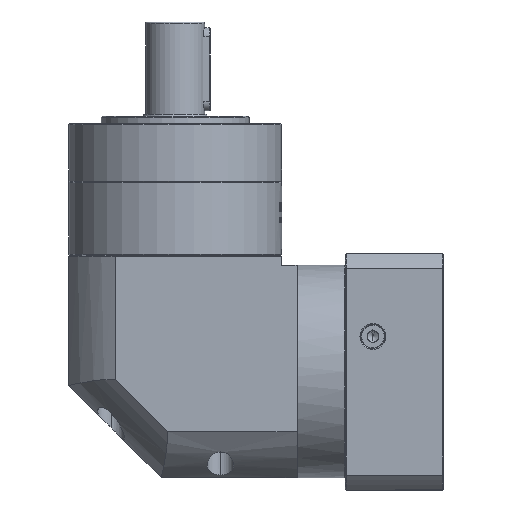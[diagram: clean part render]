
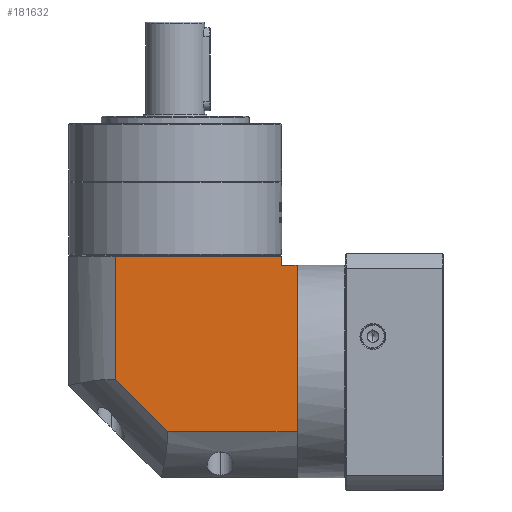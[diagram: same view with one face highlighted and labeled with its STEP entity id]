
A CAD part, left-side view. The second image highlights one B-rep face of the part: STEP entity #181632.
In plain terms, the highlighted planar face has unit normal (-1, 0, 0).
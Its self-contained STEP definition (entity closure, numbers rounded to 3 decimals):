
#5283 = CARTESIAN_POINT ( 'NONE',  ( -298.076, -80.933, 2.07 ) ) ;
#6158 = CARTESIAN_POINT ( 'NONE',  ( -298.076, 42.467, 2.07 ) ) ;
#6848 = VERTEX_POINT ( 'NONE', #59376 ) ;
#7757 = DIRECTION ( 'NONE',  ( 0., 1., 0. ) ) ;
#10966 = CARTESIAN_POINT ( 'NONE',  ( -298.076, -72.533, 96.97 ) ) ;
#12203 = ORIENTED_EDGE ( 'NONE', *, *, #44367, .F. ) ;
#12793 = LINE ( 'NONE', #159366, #122708 ) ;
#14557 = DIRECTION ( 'NONE',  ( 0., 0., 1. ) ) ;
#28820 = CARTESIAN_POINT ( 'NONE',  ( -298.076, -72.533, -23.03 ) ) ;
#29310 = CARTESIAN_POINT ( 'NONE',  ( -298.076, 17.367, 96.97 ) ) ;
#31115 = VECTOR ( 'NONE', #87842, 1000. ) ;
#34261 = EDGE_CURVE ( 'NONE', #171679, #169078, #182042, .T. ) ;
#37589 = CARTESIAN_POINT ( 'NONE',  ( -298.076, 42.467, 96.97 ) ) ;
#43443 = VECTOR ( 'NONE', #58281, 1000. ) ;
#44367 = EDGE_CURVE ( 'NONE', #99599, #169078, #136914, .T. ) ;
#49477 = AXIS2_PLACEMENT_3D ( 'NONE', #168562, #124232, #96003 ) ;
#50955 = LINE ( 'NONE', #103453, #116828 ) ;
#58281 = DIRECTION ( 'NONE',  ( 0., 0., 1. ) ) ;
#59376 = CARTESIAN_POINT ( 'NONE',  ( -298.076, 17.367, 30.408 ) ) ;
#65256 = EDGE_LOOP ( 'NONE', ( #91799, #118980, #157687, #157372, #175764, #162749, #12203 ) ) ;
#67334 = LINE ( 'NONE', #83324, #172774 ) ;
#69162 = EDGE_CURVE ( 'NONE', #89600, #171679, #119197, .T. ) ;
#74395 = FACE_OUTER_BOUND ( 'NONE', #65256, .T. ) ;
#78170 = EDGE_CURVE ( 'NONE', #6848, #99599, #67334, .T. ) ;
#83324 = CARTESIAN_POINT ( 'NONE',  ( -298.076, 17.367, 103.47 ) ) ;
#87842 = DIRECTION ( 'NONE',  ( 0., 1., 0. ) ) ;
#88684 = EDGE_CURVE ( 'NONE', #119523, #6848, #50955, .T. ) ;
#89600 = VERTEX_POINT ( 'NONE', #174861 ) ;
#91799 = ORIENTED_EDGE ( 'NONE', *, *, #78170, .F. ) ;
#96003 = DIRECTION ( 'NONE',  ( 0., 1., 0. ) ) ;
#99599 = VERTEX_POINT ( 'NONE', #29310 ) ;
#101399 = LINE ( 'NONE', #6158, #31115 ) ;
#103453 = CARTESIAN_POINT ( 'NONE',  ( -298.076, -10.971, 2.07 ) ) ;
#110721 = PLANE ( 'NONE',  #49477 ) ;
#111415 = EDGE_CURVE ( 'NONE', #178749, #119523, #101399, .T. ) ;
#114943 = CARTESIAN_POINT ( 'NONE',  ( -298.076, -72.533, 91.97 ) ) ;
#116828 = VECTOR ( 'NONE', #174204, 1000. ) ;
#116840 = DIRECTION ( 'NONE',  ( 0., 0., -1. ) ) ;
#118980 = ORIENTED_EDGE ( 'NONE', *, *, #88684, .F. ) ;
#119197 = LINE ( 'NONE', #129312, #167707 ) ;
#119523 = VERTEX_POINT ( 'NONE', #168672 ) ;
#120299 = EDGE_CURVE ( 'NONE', #89600, #178749, #12793, .T. ) ;
#122708 = VECTOR ( 'NONE', #116840, 1000. ) ;
#123459 = DIRECTION ( 'NONE',  ( 0., -1., 0. ) ) ;
#124232 = DIRECTION ( 'NONE',  ( 1., 0., 0. ) ) ;
#129312 = CARTESIAN_POINT ( 'NONE',  ( -298.076, -72.533, 91.97 ) ) ;
#134603 = VECTOR ( 'NONE', #123459, 1000. ) ;
#136914 = LINE ( 'NONE', #37589, #134603 ) ;
#157372 = ORIENTED_EDGE ( 'NONE', *, *, #120299, .F. ) ;
#157687 = ORIENTED_EDGE ( 'NONE', *, *, #111415, .F. ) ;
#159366 = CARTESIAN_POINT ( 'NONE',  ( -298.076, -80.933, 103.47 ) ) ;
#162749 = ORIENTED_EDGE ( 'NONE', *, *, #34261, .T. ) ;
#167707 = VECTOR ( 'NONE', #7757, 1000. ) ;
#168562 = CARTESIAN_POINT ( 'NONE',  ( -298.076, 42.467, 103.47 ) ) ;
#168672 = CARTESIAN_POINT ( 'NONE',  ( -298.076, -10.971, 2.07 ) ) ;
#169078 = VERTEX_POINT ( 'NONE', #10966 ) ;
#171679 = VERTEX_POINT ( 'NONE', #114943 ) ;
#172774 = VECTOR ( 'NONE', #14557, 1000. ) ;
#174204 = DIRECTION ( 'NONE',  ( 0., 0.707, 0.707 ) ) ;
#174861 = CARTESIAN_POINT ( 'NONE',  ( -298.076, -80.933, 91.97 ) ) ;
#175764 = ORIENTED_EDGE ( 'NONE', *, *, #69162, .T. ) ;
#178749 = VERTEX_POINT ( 'NONE', #5283 ) ;
#181632 = ADVANCED_FACE ( 'NONE', ( #74395 ), #110721, .F. ) ;
#182042 = LINE ( 'NONE', #28820, #43443 ) ;
